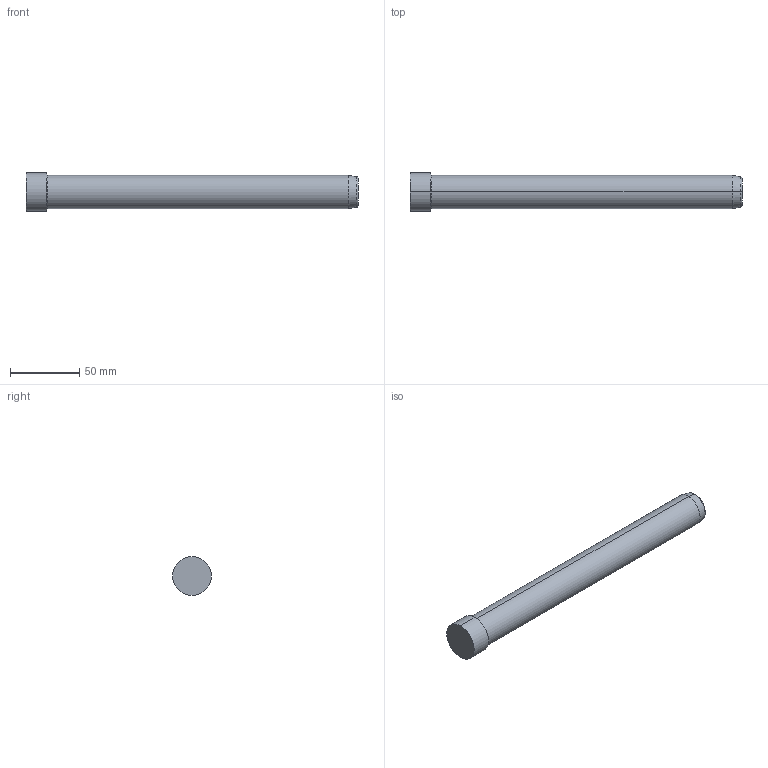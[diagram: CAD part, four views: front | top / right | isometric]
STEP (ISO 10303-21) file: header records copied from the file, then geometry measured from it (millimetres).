
FILE_DESCRIPTION( ( 'STEP AP203' ), '1' );
FILE_NAME( 'D:/Delta 3 D/D01D/24/D01D - 24x240.step', '2003-01-02T23:32:41', ( ' ' ), ( ' ' ), 'XStep 1.0', ' ', ' ' );
FILE_SCHEMA( ( 'CONFIG_CONTROL_DESIGN' ) );
Length unit declared in the file: metre
Products named in the file (1): 1
Bounding box: 240 x 28 x 28 mm (x, y, z)
Volume: 110690.6 mm3; surface area: 19425 mm2
Topology: 1 solids, 1 shells, 14 faces, 26 edges, 16 vertices
Faces by surface type: revolution 8, bspline 6
Entity records: 437 total; most frequent: CARTESIAN_POINT 121, ORIENTED_EDGE 52, DIRECTION 50, EDGE_CURVE 26, AXIS2_PLACEMENT_3D 17, EDGE_LOOP 16, VERTEX_POINT 16, CIRCLE 16
